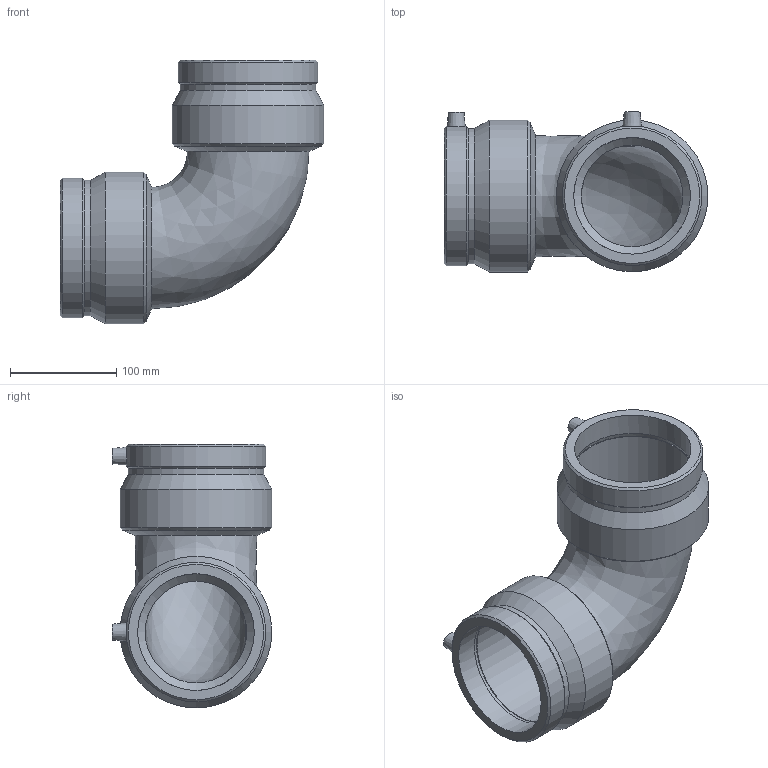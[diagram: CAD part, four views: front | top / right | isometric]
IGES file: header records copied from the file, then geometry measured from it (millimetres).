
Global section: file name: 490504110.ipt; native system: Autodesk Inventor 2015; preprocessor: unknown; author: KIM; date: 20171106.093638; units: millimetre
Bounding box: 248.72 x 150.5 x 248.72 mm (x, y, z)
Volume: 1353678.6 mm3; surface area: 249399.9 mm2
Topology: 1 solids, 1 shells, 44 faces, 102 edges, 66 vertices
Faces by surface type: cone 14, revolution 12, plane 10, cylinder 8
Full cylindrical faces by diameter (mm): 4 x2, 127.613 x2, 131.56 x2, 143 x2
